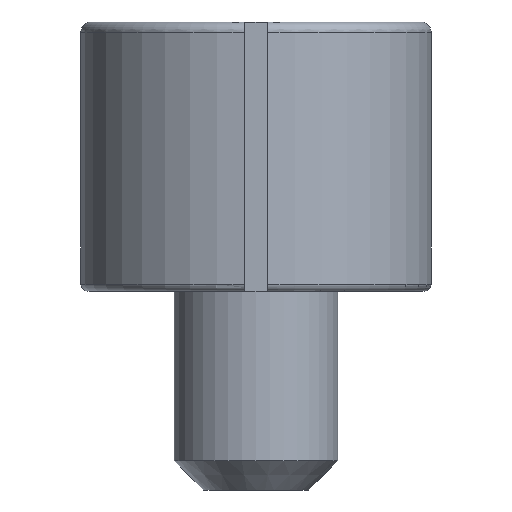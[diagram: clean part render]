
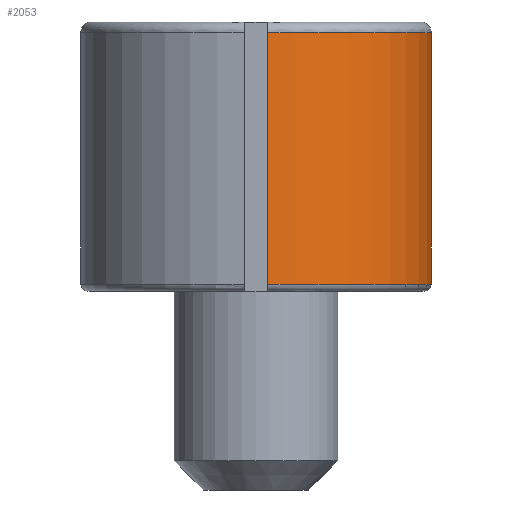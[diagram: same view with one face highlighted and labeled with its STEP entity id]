
A CAD part, front view. The second image highlights one B-rep face of the part: STEP entity #2053.
In plain terms, the highlighted cylindrical face has radius 38.1 mm (diameter 76.2 mm), a partial arc.
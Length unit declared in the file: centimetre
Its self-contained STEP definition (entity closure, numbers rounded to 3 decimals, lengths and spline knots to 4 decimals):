
#444=CYLINDRICAL_SURFACE('',#4610,3.81);
#539=VERTEX_POINT('',#6209);
#540=VERTEX_POINT('',#6211);
#541=VERTEX_POINT('',#6224);
#542=VERTEX_POINT('',#6226);
#781=EDGE_CURVE('',#539,#540,#3682,.T.);
#783=EDGE_CURVE('',#539,#541,#2370,.T.);
#784=EDGE_CURVE('',#542,#541,#3683,.T.);
#785=EDGE_CURVE('',#540,#542,#2371,.T.);
#1148=ORIENTED_EDGE('',*,*,#781,.F.);
#1149=ORIENTED_EDGE('',*,*,#783,.T.);
#1150=ORIENTED_EDGE('',*,*,#784,.F.);
#1151=ORIENTED_EDGE('',*,*,#785,.F.);
#1787=EDGE_LOOP('',(#1148,#1149,#1150,#1151));
#1925=FACE_BOUND('',#1787,.T.);
#2053=ADVANCED_FACE('',(#1925),#444,.T.);
#2370=LINE('',#6223,#4990);
#2371=LINE('',#6227,#4991);
#3682=CIRCLE('',#4609,3.81);
#3683=CIRCLE('',#4611,3.81);
#4609=AXIS2_PLACEMENT_3D('',#6210,#7163,#7164);
#4610=AXIS2_PLACEMENT_3D('',#6222,#7165,#7166);
#4611=AXIS2_PLACEMENT_3D('',#6225,#7168,#7169);
#4990=VECTOR('',#7167,1.);
#4991=VECTOR('',#7170,1.);
#6209=CARTESIAN_POINT('',(3.8015,-0.254,0.1524));
#6210=CARTESIAN_POINT('',(0.,0.,0.1524));
#6211=CARTESIAN_POINT('',(0.254,-3.8015,0.1524));
#6222=CARTESIAN_POINT('',(0.,0.,0.));
#6223=CARTESIAN_POINT('',(3.8015,-0.254,0.));
#6224=CARTESIAN_POINT('',(3.8015,-0.254,5.6134));
#6225=CARTESIAN_POINT('',(0.,0.,5.6134));
#6226=CARTESIAN_POINT('',(0.254,-3.8015,5.6134));
#6227=CARTESIAN_POINT('',(0.254,-3.8015,0.));
#7163=DIRECTION('',(0.,0.,-1.));
#7164=DIRECTION('',(2.694,-2.694,0.));
#7165=DIRECTION('',(0.,0.,1.));
#7166=DIRECTION('',(3.81,0.,0.));
#7167=DIRECTION('',(0.,0.,1.));
#7168=DIRECTION('',(0.,0.,1.));
#7169=DIRECTION('',(2.694,-2.694,0.));
#7170=DIRECTION('',(0.,0.,1.));
